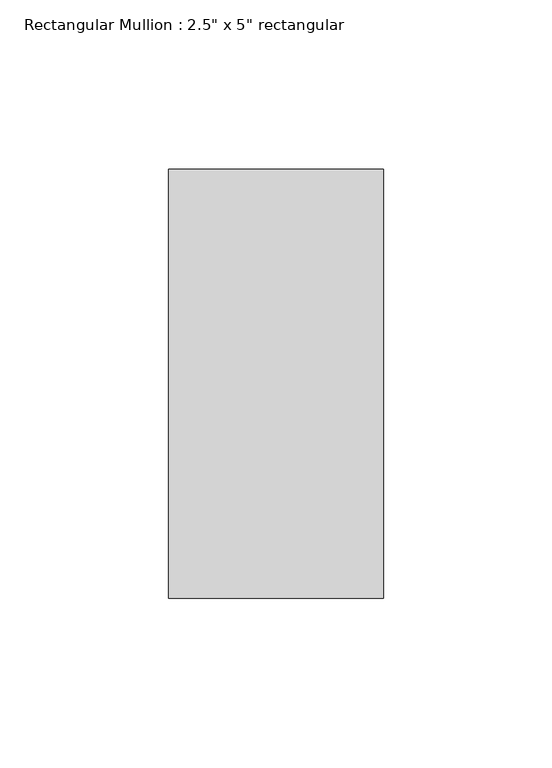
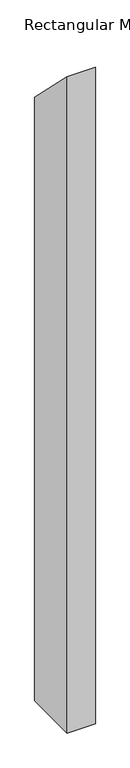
"""IFC4 building model written with IfcOpenShell, lengths in millimetres: member geometry."""

from ifc_helpers import new_model, si_unit, frame, origin, place, context, project, spatial, polyline, outline, extrude, source, transform, mapped, element, save


def member_5c0e4d7d(model_context):
    return source(origin(), model_context, "Body", "SweptSolid", [
        extrude(outline(polyline([(-76.2, 76.2), (50.8, -50.8), (50.8, -1489.9821429), (-76.2, -1489.9821429), (-76.2, 76.2)])), frame((-63.5, 0.0, 0.0), z_axis=(1.0, 0.0, 0.0), x_axis=(0.0, 1.0, 0.0)), (0.0, 0.0, 1.0), 63.5),
    ])


if __name__ == "__main__":
    model = new_model("IFC4")
    model_context = context("Model", 3, world=origin())
    ifc_project = project(units=[si_unit("LENGTHUNIT", "METRE", prefix="MILLI")], contexts=[model_context])
    site = spatial("IfcSite", under=ifc_project)
    building = spatial("IfcBuilding", under=site)
    placement = place(None, origin())
    member_shape = member_5c0e4d7d(model_context)
    element("IfcMember", 1, ObjectType="Rectangular Mullion : 2.5\" x 5\" rectangular", at=placement, inside=building, context=model_context, shape_type="MappedRepresentation", body=[
        mapped(member_shape, transform((0.0, 0.0, 0.0), x_axis=(1.0, 0.0, 0.0), y_axis=(0.0, 1.0, 0.0), z_axis=(0.0, 0.0, 1.0))),
    ])
    save(model, "model.ifc")
